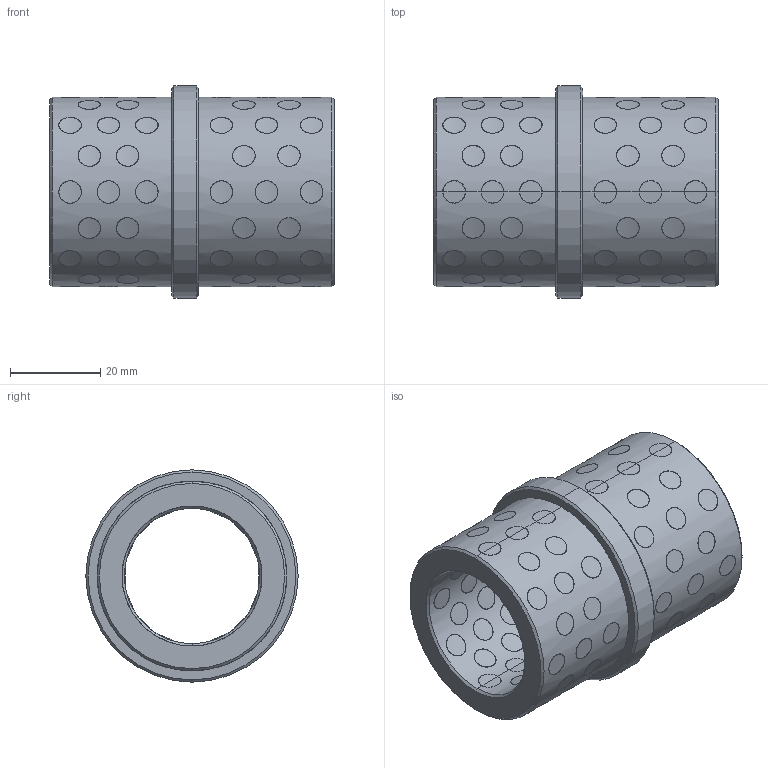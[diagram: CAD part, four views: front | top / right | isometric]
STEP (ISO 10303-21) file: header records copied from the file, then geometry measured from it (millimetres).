
FILE_DESCRIPTION(('CATIA V5 STEP Exchange'),'2;1');
FILE_NAME('C:\Users\Utente\Desktop\3D files G313\G3133036.stp','2020-04-22T07:33:46+00:00',('none'),('none'),'CATIA Version 5 Release 20 GA (IN-10)','CATIA V5 STEP AP203','none');
FILE_SCHEMA(('CONFIG_CONTROL_DESIGN'));
Products named in the file (1): G3133036
Bounding box: 63 x 47 x 47 mm (x, y, z)
Surface area: 31197 mm2 (no closed solid volume)
Topology: 0 solids, 528 shells, 528 faces, 2304 edges, 2304 vertices
Faces by surface type: cylinder 512, revolution 12, plane 4
Entity records: 50959 total; most frequent: CARTESIAN_POINT 35018, ORIENTED_EDGE 2304, EDGE_CURVE 2304, VERTEX_POINT 2304, DIRECTION 1867, B_SPLINE_CURVE_WITH_KNOTS 1493, VECTOR 776, LINE 776
